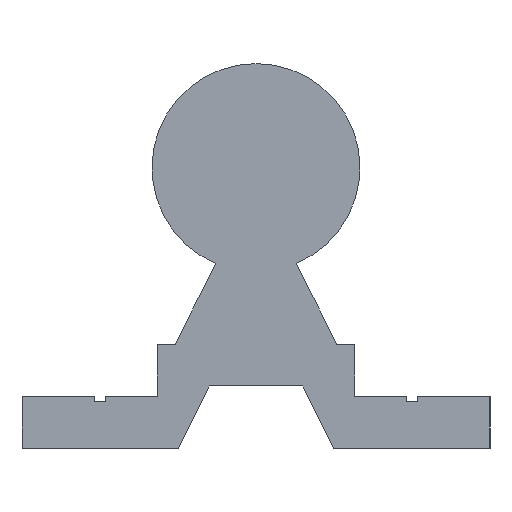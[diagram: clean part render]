
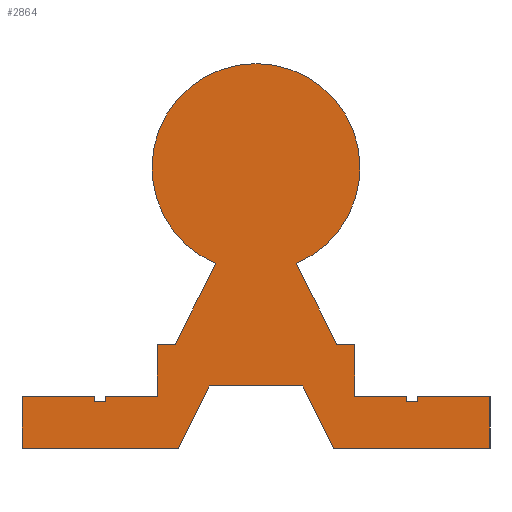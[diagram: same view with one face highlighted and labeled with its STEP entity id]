
A CAD part, left-side view. The second image highlights one B-rep face of the part: STEP entity #2864.
In plain terms, the highlighted planar face has unit normal (-1, 0, 0).
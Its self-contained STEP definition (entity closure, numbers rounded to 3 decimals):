
#71=LINE('',#4087,#307);
#81=LINE('',#4128,#317);
#110=LINE('',#4345,#346);
#244=LINE('',#4849,#480);
#248=LINE('',#4857,#484);
#251=LINE('',#4863,#487);
#254=LINE('',#4869,#490);
#257=LINE('',#4875,#493);
#261=LINE('',#4882,#497);
#264=LINE('',#4887,#500);
#266=LINE('',#4891,#502);
#267=LINE('',#4893,#503);
#268=LINE('',#4896,#504);
#271=LINE('',#4902,#507);
#274=LINE('',#4908,#510);
#277=LINE('',#4915,#513);
#281=LINE('',#4923,#517);
#284=LINE('',#4928,#520);
#287=LINE('',#4933,#523);
#289=LINE('',#4937,#525);
#290=LINE('',#4939,#526);
#291=LINE('',#4942,#527);
#294=LINE('',#4947,#530);
#307=VECTOR('',#3228,10.);
#317=VECTOR('',#3250,10.);
#346=VECTOR('',#3409,10.);
#480=VECTOR('',#3929,10.);
#484=VECTOR('',#3935,10.);
#487=VECTOR('',#3940,10.);
#490=VECTOR('',#3945,10.);
#493=VECTOR('',#3950,10.);
#497=VECTOR('',#3956,10.);
#500=VECTOR('',#3961,10.);
#502=VECTOR('',#3965,10.);
#503=VECTOR('',#3968,10.);
#504=VECTOR('',#3971,10.);
#507=VECTOR('',#3976,10.);
#510=VECTOR('',#3981,10.);
#513=VECTOR('',#3986,10.);
#517=VECTOR('',#3992,10.);
#520=VECTOR('',#3997,10.);
#523=VECTOR('',#4002,10.);
#525=VECTOR('',#4006,10.);
#526=VECTOR('',#4009,10.);
#527=VECTOR('',#4012,10.);
#530=VECTOR('',#4017,10.);
#622=PLANE('',#3186);
#752=FACE_OUTER_BOUND('',#904,.T.);
#904=EDGE_LOOP('',(#2695,#2696,#2697,#2698,#2699,#2700,#2701,#2702,#2703,
#2704,#2705,#2706,#2707,#2708,#2709,#2710,#2711,#2712,#2713,#2714,#2715,
#2716,#2717,#2718));
#1075=CIRCLE('',#3183,10.);
#1133=VERTEX_POINT('',#4084);
#1134=VERTEX_POINT('',#4086);
#1146=VERTEX_POINT('',#4125);
#1147=VERTEX_POINT('',#4127);
#1212=VERTEX_POINT('',#4342);
#1213=VERTEX_POINT('',#4344);
#1368=VERTEX_POINT('',#4847);
#1369=VERTEX_POINT('',#4848);
#1372=VERTEX_POINT('',#4856);
#1374=VERTEX_POINT('',#4862);
#1376=VERTEX_POINT('',#4868);
#1378=VERTEX_POINT('',#4874);
#1380=VERTEX_POINT('',#4880);
#1381=VERTEX_POINT('',#4885);
#1382=VERTEX_POINT('',#4889);
#1383=VERTEX_POINT('',#4895);
#1385=VERTEX_POINT('',#4901);
#1387=VERTEX_POINT('',#4907);
#1389=VERTEX_POINT('',#4913);
#1390=VERTEX_POINT('',#4914);
#1393=VERTEX_POINT('',#4922);
#1395=VERTEX_POINT('',#4931);
#1396=VERTEX_POINT('',#4935);
#1397=VERTEX_POINT('',#4941);
#1424=EDGE_CURVE('',#1133,#1134,#71,.T.);
#1440=EDGE_CURVE('',#1146,#1147,#81,.T.);
#1532=EDGE_CURVE('',#1212,#1213,#110,.T.);
#1785=EDGE_CURVE('',#1368,#1369,#244,.T.);
#1789=EDGE_CURVE('',#1372,#1368,#248,.T.);
#1792=EDGE_CURVE('',#1374,#1372,#251,.T.);
#1795=EDGE_CURVE('',#1376,#1374,#254,.T.);
#1798=EDGE_CURVE('',#1378,#1376,#257,.T.);
#1802=EDGE_CURVE('',#1380,#1378,#261,.T.);
#1805=EDGE_CURVE('',#1381,#1380,#264,.T.);
#1807=EDGE_CURVE('',#1382,#1381,#266,.T.);
#1808=EDGE_CURVE('',#1213,#1382,#267,.T.);
#1809=EDGE_CURVE('',#1383,#1212,#268,.T.);
#1812=EDGE_CURVE('',#1385,#1383,#271,.T.);
#1815=EDGE_CURVE('',#1387,#1385,#274,.T.);
#1818=EDGE_CURVE('',#1389,#1390,#277,.T.);
#1822=EDGE_CURVE('',#1393,#1389,#281,.T.);
#1825=EDGE_CURVE('',#1134,#1393,#284,.T.);
#1828=EDGE_CURVE('',#1395,#1133,#287,.T.);
#1830=EDGE_CURVE('',#1396,#1395,#289,.T.);
#1831=EDGE_CURVE('',#1147,#1396,#290,.T.);
#1832=EDGE_CURVE('',#1397,#1146,#291,.T.);
#1835=EDGE_CURVE('',#1369,#1397,#294,.T.);
#1837=EDGE_CURVE('',#1390,#1387,#1075,.T.);
#2695=ORIENTED_EDGE('',*,*,#1837,.F.);
#2696=ORIENTED_EDGE('',*,*,#1818,.F.);
#2697=ORIENTED_EDGE('',*,*,#1822,.F.);
#2698=ORIENTED_EDGE('',*,*,#1825,.F.);
#2699=ORIENTED_EDGE('',*,*,#1424,.F.);
#2700=ORIENTED_EDGE('',*,*,#1828,.F.);
#2701=ORIENTED_EDGE('',*,*,#1830,.F.);
#2702=ORIENTED_EDGE('',*,*,#1831,.F.);
#2703=ORIENTED_EDGE('',*,*,#1440,.F.);
#2704=ORIENTED_EDGE('',*,*,#1832,.F.);
#2705=ORIENTED_EDGE('',*,*,#1835,.F.);
#2706=ORIENTED_EDGE('',*,*,#1785,.F.);
#2707=ORIENTED_EDGE('',*,*,#1789,.F.);
#2708=ORIENTED_EDGE('',*,*,#1792,.F.);
#2709=ORIENTED_EDGE('',*,*,#1795,.F.);
#2710=ORIENTED_EDGE('',*,*,#1798,.F.);
#2711=ORIENTED_EDGE('',*,*,#1802,.F.);
#2712=ORIENTED_EDGE('',*,*,#1805,.F.);
#2713=ORIENTED_EDGE('',*,*,#1807,.F.);
#2714=ORIENTED_EDGE('',*,*,#1808,.F.);
#2715=ORIENTED_EDGE('',*,*,#1532,.F.);
#2716=ORIENTED_EDGE('',*,*,#1809,.F.);
#2717=ORIENTED_EDGE('',*,*,#1812,.F.);
#2718=ORIENTED_EDGE('',*,*,#1815,.F.);
#2864=ADVANCED_FACE('',(#752),#622,.F.);
#3183=AXIS2_PLACEMENT_3D('',#4950,#4021,#4022);
#3186=AXIS2_PLACEMENT_3D('',#4953,#4027,#4028);
#3228=DIRECTION('',(0.,-1.,0.));
#3250=DIRECTION('',(0.,-1.,0.));
#3409=DIRECTION('',(0.,-1.,0.));
#3929=DIRECTION('',(0.,0.447,-0.894));
#3935=DIRECTION('',(0.,1.,0.));
#3940=DIRECTION('',(0.,0.447,0.894));
#3945=DIRECTION('',(0.,1.,0.));
#3950=DIRECTION('',(0.,0.,-1.));
#3956=DIRECTION('',(0.,-1.,0.));
#3961=DIRECTION('',(0.,0.,1.));
#3965=DIRECTION('',(0.,-1.,0.));
#3968=DIRECTION('',(0.,0.,-1.));
#3971=DIRECTION('',(0.,0.,-1.));
#3976=DIRECTION('',(0.,-1.,0.));
#3981=DIRECTION('',(0.,-0.447,-0.894));
#3986=DIRECTION('',(0.,-0.447,0.894));
#3992=DIRECTION('',(0.,-1.,0.));
#3997=DIRECTION('',(0.,0.,1.));
#4002=DIRECTION('',(0.,0.,1.));
#4006=DIRECTION('',(0.,-1.,0.));
#4009=DIRECTION('',(0.,0.,-1.));
#4012=DIRECTION('',(0.,0.,1.));
#4017=DIRECTION('',(0.,1.,0.));
#4021=DIRECTION('center_axis',(1.,0.,0.));
#4022=DIRECTION('ref_axis',(0.,1.,0.));
#4027=DIRECTION('center_axis',(1.,0.,0.));
#4028=DIRECTION('ref_axis',(0.,0.,-1.));
#4084=CARTESIAN_POINT('',(0.,14.5,5.));
#4086=CARTESIAN_POINT('',(0.,9.5,5.));
#4087=CARTESIAN_POINT('',(0.,14.5,5.));
#4125=CARTESIAN_POINT('',(0.,22.5,5.));
#4127=CARTESIAN_POINT('',(0.,15.5,5.));
#4128=CARTESIAN_POINT('',(0.,22.5,5.));
#4342=CARTESIAN_POINT('',(0.,-9.5,5.));
#4344=CARTESIAN_POINT('',(0.,-14.5,5.));
#4345=CARTESIAN_POINT('',(0.,-9.5,5.));
#4847=CARTESIAN_POINT('',(0.,4.5,6.));
#4848=CARTESIAN_POINT('',(0.,7.5,0.));
#4849=CARTESIAN_POINT('',(0.,4.5,6.));
#4856=CARTESIAN_POINT('',(0.,-4.5,6.));
#4857=CARTESIAN_POINT('',(0.,-4.5,6.));
#4862=CARTESIAN_POINT('',(0.,-7.5,0.));
#4863=CARTESIAN_POINT('',(0.,-7.5,0.));
#4868=CARTESIAN_POINT('',(0.,-22.5,0.));
#4869=CARTESIAN_POINT('',(0.,-22.5,0.));
#4874=CARTESIAN_POINT('',(0.,-22.5,5.));
#4875=CARTESIAN_POINT('',(0.,-22.5,5.));
#4880=CARTESIAN_POINT('',(0.,-15.5,5.));
#4882=CARTESIAN_POINT('',(0.,-15.5,5.));
#4885=CARTESIAN_POINT('',(0.,-15.5,4.5));
#4887=CARTESIAN_POINT('',(0.,-15.5,4.5));
#4889=CARTESIAN_POINT('',(0.,-14.5,4.5));
#4891=CARTESIAN_POINT('',(0.,-14.5,4.5));
#4893=CARTESIAN_POINT('',(0.,-14.5,5.));
#4895=CARTESIAN_POINT('',(0.,-9.5,10.));
#4896=CARTESIAN_POINT('',(0.,-9.5,10.));
#4901=CARTESIAN_POINT('',(0.,-7.766,10.));
#4902=CARTESIAN_POINT('',(0.,-7.766,10.));
#4907=CARTESIAN_POINT('',(0.,-3.875,17.781));
#4908=CARTESIAN_POINT('',(0.,-3.875,17.781));
#4913=CARTESIAN_POINT('',(0.,7.766,10.));
#4914=CARTESIAN_POINT('',(0.,3.875,17.781));
#4915=CARTESIAN_POINT('',(0.,7.766,10.));
#4922=CARTESIAN_POINT('',(0.,9.5,10.));
#4923=CARTESIAN_POINT('',(0.,9.5,10.));
#4928=CARTESIAN_POINT('',(0.,9.5,5.));
#4931=CARTESIAN_POINT('',(0.,14.5,4.5));
#4933=CARTESIAN_POINT('',(0.,14.5,4.5));
#4935=CARTESIAN_POINT('',(0.,15.5,4.5));
#4937=CARTESIAN_POINT('',(0.,15.5,4.5));
#4939=CARTESIAN_POINT('',(0.,15.5,5.));
#4941=CARTESIAN_POINT('',(0.,22.5,0.));
#4942=CARTESIAN_POINT('',(0.,22.5,0.));
#4947=CARTESIAN_POINT('',(0.,7.5,0.));
#4950=CARTESIAN_POINT('Origin',(0.,0.,27.));
#4953=CARTESIAN_POINT('Origin',(0.,0.,27.));
